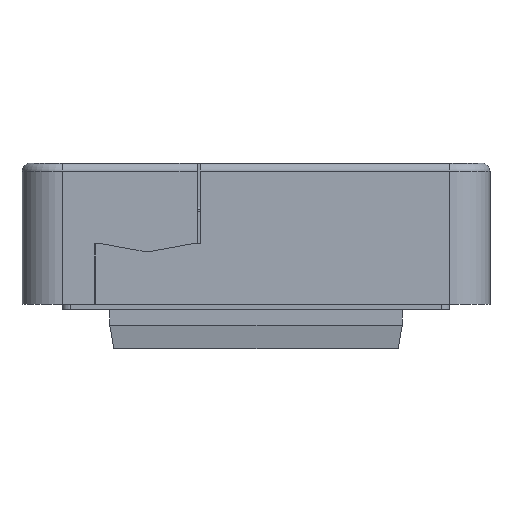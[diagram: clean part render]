
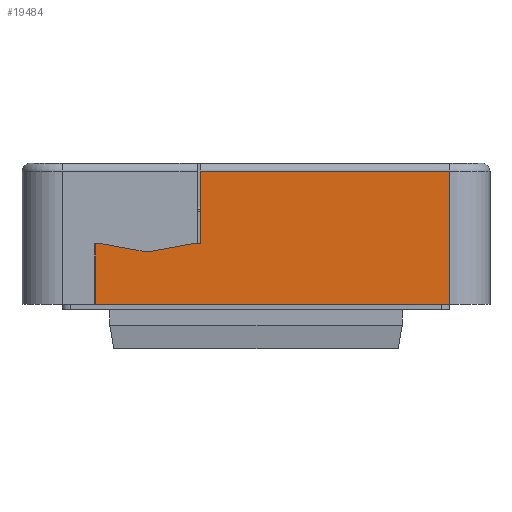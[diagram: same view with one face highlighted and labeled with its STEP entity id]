
A CAD part, left-side view. The second image highlights one B-rep face of the part: STEP entity #19484.
In plain terms, the highlighted planar face has unit normal (-1, 0, 0) as drawn and (1, 0, 0) by its records, which use the part's own axes.
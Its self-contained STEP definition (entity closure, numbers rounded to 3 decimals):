
#2466=FACE_OUTER_BOUND('',#3573,.T.);
#3573=EDGE_LOOP('',(#15928,#15929,#15930,#15931,#15932,#15933,#15934,#15935,
#15936));
#5283=LINE('',#31538,#7166);
#5287=LINE('',#31545,#7170);
#5289=LINE('',#31549,#7172);
#5290=LINE('',#31551,#7173);
#5291=LINE('',#31553,#7174);
#5292=LINE('',#31555,#7175);
#5293=LINE('',#31557,#7176);
#5294=LINE('',#31559,#7177);
#5295=LINE('',#31560,#7178);
#7166=VECTOR('',#24365,10.);
#7170=VECTOR('',#24371,10.);
#7172=VECTOR('',#24375,10.);
#7173=VECTOR('',#24376,10.);
#7174=VECTOR('',#24377,10.);
#7175=VECTOR('',#24378,10.);
#7176=VECTOR('',#24379,10.);
#7177=VECTOR('',#24380,10.);
#7178=VECTOR('',#24381,10.);
#9012=VERTEX_POINT('',#31536);
#9013=VERTEX_POINT('',#31537);
#9015=VERTEX_POINT('',#31544);
#9016=VERTEX_POINT('',#31548);
#9017=VERTEX_POINT('',#31550);
#9018=VERTEX_POINT('',#31552);
#9019=VERTEX_POINT('',#31554);
#9020=VERTEX_POINT('',#31556);
#9021=VERTEX_POINT('',#31558);
#11468=EDGE_CURVE('',#9012,#9013,#5283,.T.);
#11472=EDGE_CURVE('',#9015,#9012,#5287,.T.);
#11474=EDGE_CURVE('',#9016,#9013,#5289,.T.);
#11475=EDGE_CURVE('',#9017,#9016,#5290,.T.);
#11476=EDGE_CURVE('',#9018,#9017,#5291,.T.);
#11477=EDGE_CURVE('',#9018,#9019,#5292,.T.);
#11478=EDGE_CURVE('',#9019,#9020,#5293,.T.);
#11479=EDGE_CURVE('',#9020,#9021,#5294,.T.);
#11480=EDGE_CURVE('',#9021,#9015,#5295,.T.);
#15928=ORIENTED_EDGE('',*,*,#11468,.T.);
#15929=ORIENTED_EDGE('',*,*,#11474,.F.);
#15930=ORIENTED_EDGE('',*,*,#11475,.F.);
#15931=ORIENTED_EDGE('',*,*,#11476,.F.);
#15932=ORIENTED_EDGE('',*,*,#11477,.T.);
#15933=ORIENTED_EDGE('',*,*,#11478,.T.);
#15934=ORIENTED_EDGE('',*,*,#11479,.T.);
#15935=ORIENTED_EDGE('',*,*,#11480,.T.);
#15936=ORIENTED_EDGE('',*,*,#11472,.T.);
#18590=PLANE('',#20824);
#19484=ADVANCED_FACE('',(#2466),#18590,.T.);
#20824=AXIS2_PLACEMENT_3D('',#31547,#24373,#24374);
#24365=DIRECTION('',(0.,0.,1.));
#24371=DIRECTION('',(0.,1.,0.));
#24373=DIRECTION('center_axis',(1.,0.,0.));
#24374=DIRECTION('ref_axis',(0.,0.,-1.));
#24375=DIRECTION('',(0.,1.,0.));
#24376=DIRECTION('',(0.,0.,1.));
#24377=DIRECTION('',(0.,-1.,0.));
#24378=DIRECTION('',(0.,0.,1.));
#24379=DIRECTION('',(0.,1.,0.));
#24380=DIRECTION('',(0.,0.984,0.179));
#24381=DIRECTION('',(0.,0.984,-0.179));
#31536=CARTESIAN_POINT('',(74.,19.9,-8.));
#31537=CARTESIAN_POINT('',(74.,19.9,-0.5));
#31538=CARTESIAN_POINT('',(74.,19.9,-2.554));
#31544=CARTESIAN_POINT('',(74.,19.,-8.));
#31545=CARTESIAN_POINT('',(74.,-3.75,-8.));
#31547=CARTESIAN_POINT('Origin',(74.,-27.5,0.));
#31548=CARTESIAN_POINT('',(74.,-24.,-0.5));
#31549=CARTESIAN_POINT('',(74.,-29.,-0.5));
#31550=CARTESIAN_POINT('',(74.,-24.,-17.));
#31551=CARTESIAN_POINT('',(74.,-24.,-0.25));
#31552=CARTESIAN_POINT('',(74.,6.9,-17.));
#31553=CARTESIAN_POINT('',(74.,-22.917,-17.));
#31554=CARTESIAN_POINT('',(74.,6.9,-8.));
#31555=CARTESIAN_POINT('',(74.,6.9,-6.625));
#31556=CARTESIAN_POINT('',(74.,8.,-8.));
#31557=CARTESIAN_POINT('',(74.,-3.75,-8.));
#31558=CARTESIAN_POINT('',(74.,13.5,-7.));
#31559=CARTESIAN_POINT('',(74.,-5.728,-10.496));
#31560=CARTESIAN_POINT('',(74.,-4.21,-3.78));
